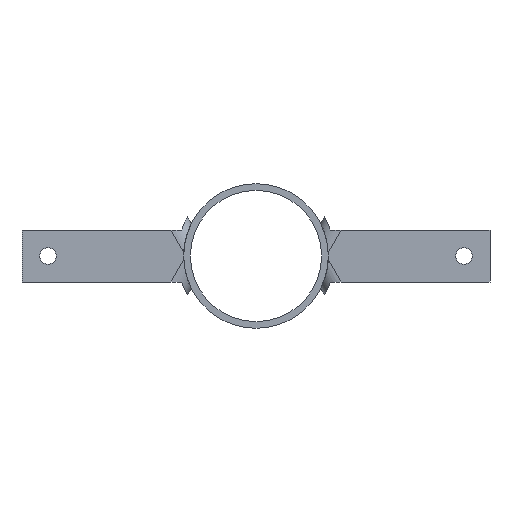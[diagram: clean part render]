
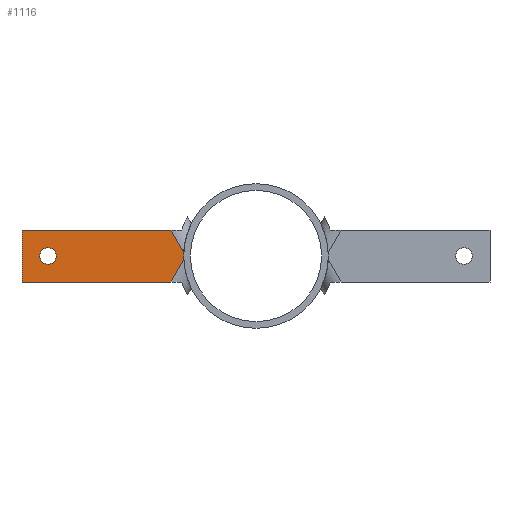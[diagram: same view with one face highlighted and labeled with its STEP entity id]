
A CAD part, front view. The second image highlights one B-rep face of the part: STEP entity #1116.
In plain terms, the highlighted planar face has unit normal (0, -1, 0).
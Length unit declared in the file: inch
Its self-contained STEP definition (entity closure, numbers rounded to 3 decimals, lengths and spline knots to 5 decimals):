
#45=FACE_BOUND('',#189,.T.);
#58=CIRCLE('',#1197,2.7815);
#59=CIRCLE('',#1198,2.7815);
#60=CIRCLE('',#1199,0.3125);
#96=PLANE('',#1196);
#132=FACE_OUTER_BOUND('',#188,.T.);
#188=EDGE_LOOP('',(#748,#749,#750,#751,#752,#753,#754));
#189=EDGE_LOOP('',(#755));
#276=LINE('',#1690,#369);
#280=LINE('',#1729,#373);
#281=LINE('',#1736,#374);
#282=LINE('',#1738,#375);
#283=LINE('',#1739,#376);
#369=VECTOR('',#1328,0.3937);
#373=VECTOR('',#1334,0.3937);
#374=VECTOR('',#1341,0.3937);
#375=VECTOR('',#1342,0.3937);
#376=VECTOR('',#1343,0.3937);
#474=VERTEX_POINT('',#1687);
#475=VERTEX_POINT('',#1689);
#479=VERTEX_POINT('',#1712);
#480=VERTEX_POINT('',#1731);
#481=VERTEX_POINT('',#1733);
#482=VERTEX_POINT('',#1735);
#483=VERTEX_POINT('',#1737);
#484=VERTEX_POINT('',#1740);
#582=EDGE_CURVE('',#475,#474,#276,.T.);
#588=EDGE_CURVE('',#479,#474,#280,.T.);
#589=EDGE_CURVE('',#480,#479,#58,.T.);
#590=EDGE_CURVE('',#481,#480,#59,.T.);
#591=EDGE_CURVE('',#482,#481,#281,.T.);
#592=EDGE_CURVE('',#482,#483,#282,.T.);
#593=EDGE_CURVE('',#483,#475,#283,.T.);
#594=EDGE_CURVE('',#484,#484,#60,.T.);
#748=ORIENTED_EDGE('',*,*,#588,.F.);
#749=ORIENTED_EDGE('',*,*,#589,.F.);
#750=ORIENTED_EDGE('',*,*,#590,.F.);
#751=ORIENTED_EDGE('',*,*,#591,.F.);
#752=ORIENTED_EDGE('',*,*,#592,.T.);
#753=ORIENTED_EDGE('',*,*,#593,.T.);
#754=ORIENTED_EDGE('',*,*,#582,.T.);
#755=ORIENTED_EDGE('',*,*,#594,.T.);
#1116=ADVANCED_FACE('',(#132,#45),#96,.F.);
#1196=AXIS2_PLACEMENT_3D('',#1730,#1335,#1336);
#1197=AXIS2_PLACEMENT_3D('',#1732,#1337,#1338);
#1198=AXIS2_PLACEMENT_3D('',#1734,#1339,#1340);
#1199=AXIS2_PLACEMENT_3D('',#1741,#1344,#1345);
#1328=DIRECTION('',(1.,0.,0.));
#1334=DIRECTION('',(-0.5,0.,-0.866));
#1335=DIRECTION('center_axis',(0.,1.,0.));
#1336=DIRECTION('ref_axis',(0.,0.,1.));
#1337=DIRECTION('center_axis',(0.,-1.,0.));
#1338=DIRECTION('ref_axis',(1.,0.,0.));
#1339=DIRECTION('center_axis',(0.,-1.,0.));
#1340=DIRECTION('ref_axis',(1.,0.,0.));
#1341=DIRECTION('',(0.5,0.,-0.866));
#1342=DIRECTION('',(-1.,0.,0.));
#1343=DIRECTION('',(0.,0.,-1.));
#1344=DIRECTION('center_axis',(0.,1.,0.));
#1345=DIRECTION('ref_axis',(-1.,0.,0.));
#1687=CARTESIAN_POINT('',(-3.26947,4.,-1.));
#1689=CARTESIAN_POINT('',(-9.,4.,-1.));
#1690=CARTESIAN_POINT('',(-9.,4.,-1.));
#1712=CARTESIAN_POINT('',(-2.77756,4.,-0.14798));
#1729=CARTESIAN_POINT('',(-2.48371,4.,0.36099));
#1730=CARTESIAN_POINT('Origin',(0.,4.,0.875));
#1731=CARTESIAN_POINT('',(-2.7815,4.,0.));
#1732=CARTESIAN_POINT('Origin',(0.,4.,0.));
#1733=CARTESIAN_POINT('',(-2.77756,4.,0.14798));
#1734=CARTESIAN_POINT('Origin',(0.,4.,0.));
#1735=CARTESIAN_POINT('',(-3.26947,4.,1.));
#1736=CARTESIAN_POINT('',(-2.78902,4.,0.16783));
#1737=CARTESIAN_POINT('',(-9.,4.,1.));
#1738=CARTESIAN_POINT('',(9.,4.,1.));
#1739=CARTESIAN_POINT('',(-9.,4.,1.));
#1740=CARTESIAN_POINT('',(-7.6875,4.,0.));
#1741=CARTESIAN_POINT('Origin',(-8.,4.,0.));
